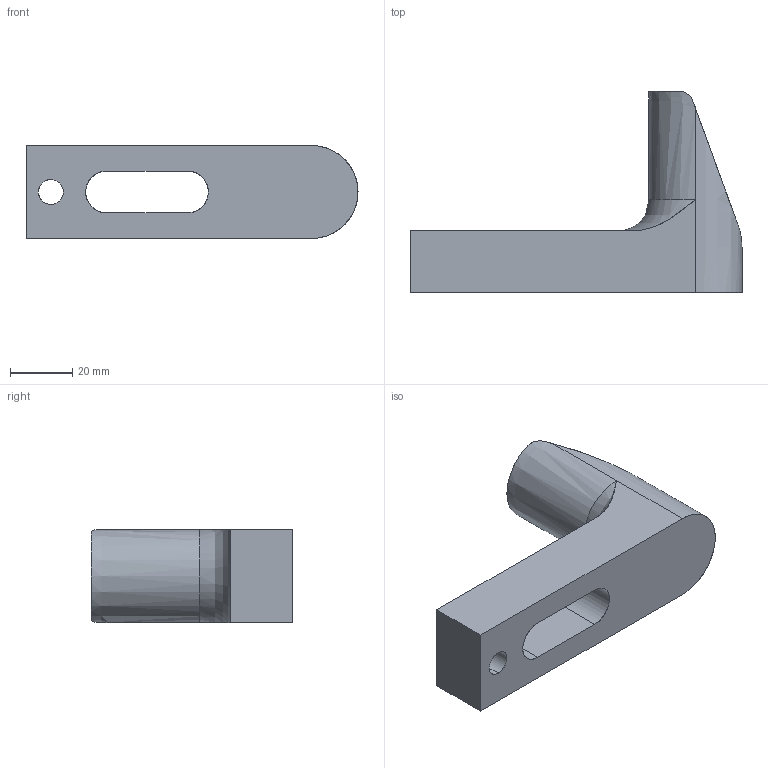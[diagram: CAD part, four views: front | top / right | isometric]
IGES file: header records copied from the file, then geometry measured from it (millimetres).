
Start section: START RECORD GO HERE.
Global section: file name: 702-2.igs; native system: DASSAULT SYSTEMES CATIA V5 R20 - www.3ds.com; preprocessor: CATIA Version 5 Release 20 ; author: Utente; organization: NB04-ASUS; date: 20200410.183242; units: millimetre
Bounding box: 107 x 65 x 30 mm (x, y, z)
Surface area: 16151.4 mm2 (no closed solid volume)
Topology: 0 solids, 0 shells, 18 faces, 95 edges, 95 vertices
Faces by surface type: revolution 9, extrusion 9
